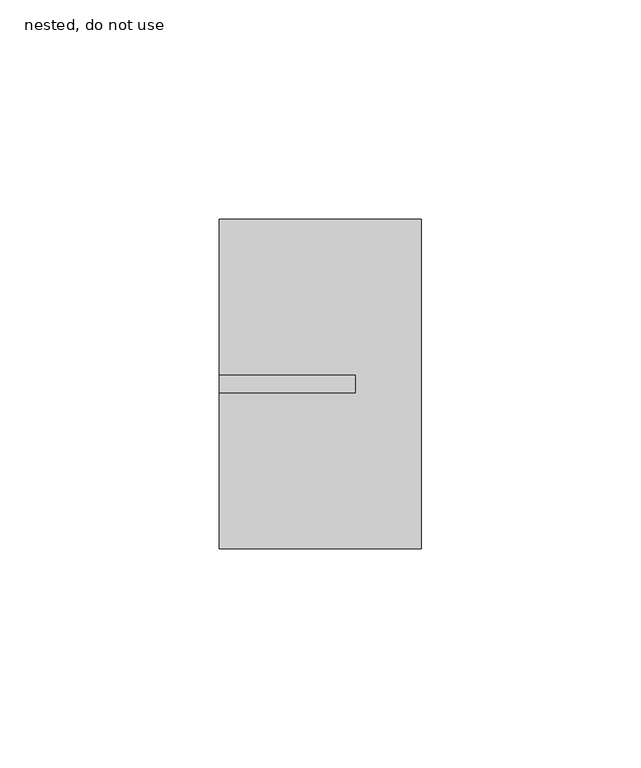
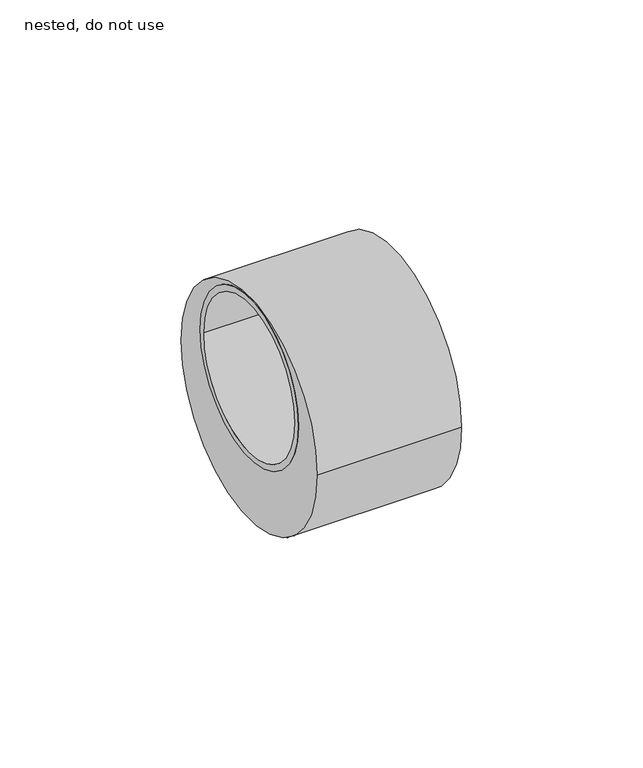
"""IFC4 building model written with IfcOpenShell, lengths in millimetres: pipe fitting geometry, NLRS_52_PIF_UN_Vacurain Flex verloop LV_SH_Dyka : nested, do not use."""

from ifc_helpers import new_model, si_unit, point, frame, frame_2d, origin, place, context, project, spatial, polyline, circle_curve, trimmed, segment, composite_curve, outline, extrude, source, transform, mapped, element, save
from ifc_brep_helpers import plane_surface, cylinder_surface, revolved_surface, advanced_brep


def nested_do_not_use_65d087fa(model_context):
    return source(origin(), model_context, "Body", "SolidModel", [
        extrude(outline(composite_curve([segment(trimmed(circle_curve(frame_2d((0.0, 10.0)), 27.0), [point((-27.0, 10.0))], [point((27.0, 10.0))], False, "CARTESIAN"), True, "CONTINUOUS"), segment(trimmed(circle_curve(frame_2d((0.0, 10.0)), 27.0), [point((27.0, 10.0))], [point((-27.0, 10.0))], False, "CARTESIAN"), True, "CONTINUOUS")], self_intersect=False), holes=[composite_curve([segment(trimmed(circle_curve(frame_2d((0.0, 10.0)), 25.0), [point((-25.0, 10.0))], [point((25.0, 10.0))], True, "CARTESIAN"), True, "CONTINUOUS"), segment(trimmed(circle_curve(frame_2d((0.0, 10.0)), 25.0), [point((25.0, 10.0))], [point((-25.0, 10.0))], True, "CARTESIAN"), True, "CONTINUOUS")], self_intersect=False)]), frame((-31.0, 0.0, 0.0), z_axis=(1.0, 0.0, 0.0), x_axis=(0.0, 1.0, 0.0)), (0.0, 0.0, 1.0), 31.0),
        advanced_brep(
        [(-31.0, -37.5, 0.0), (-31.0, 37.5, 0.0), (-31.0, -25.0, 10.0), (-31.0, 25.0, 10.0), (15.0, -37.5, 0.0), (15.0, 37.5, 0.0), (0.0, -25.0, 10.0), (0.0, 25.0, 10.0)],
        [
            (0, 1, circle_curve(frame((-31.0, 0.0, 0.0), z_axis=(-1.0, 0.0, 0.0), x_axis=(0.0, 1.0, 0.0)), 37.5)),
            (1, 0, circle_curve(frame((-31.0, 0.0, 0.0), z_axis=(-1.0, 0.0, 0.0), x_axis=(0.0, 1.0, 0.0)), 37.5)),
            (2, 3, circle_curve(frame((-31.0, 0.0, 10.0), z_axis=(1.0, 0.0, 0.0), x_axis=(0.0, 1.0, 0.0)), 25.0)),
            (3, 2, circle_curve(frame((-31.0, 0.0, 10.0), z_axis=(1.0, 0.0, 0.0), x_axis=(0.0, 1.0, 0.0)), 25.0)),
            (4, 5, circle_curve(frame((15.0, 0.0, 0.0), z_axis=(1.0, 0.0, 0.0), x_axis=(0.0, 1.0, 0.0)), 37.5)),
            (5, 4, circle_curve(frame((15.0, 0.0, 0.0), z_axis=(1.0, 0.0, 0.0), x_axis=(0.0, 1.0, 0.0)), 37.5)),
            (1, 5),
            (4, 0),
            (6, 7, circle_curve(frame((0.0, 0.0, 10.0), z_axis=(-1.0, 0.0, 0.0), x_axis=(0.0, 1.0, 0.0)), 25.0)),
            (7, 6, circle_curve(frame((0.0, 0.0, 10.0), z_axis=(-1.0, 0.0, 0.0), x_axis=(0.0, 1.0, 0.0)), 25.0)),
            (7, 3),
            (2, 6),
        ],
        [
            plane_surface(frame((-31.0, 37.5, 0.0), z_axis=(-1.0, 0.0, 0.0), x_axis=(0.0, 0.0, -1.0))),
            plane_surface(frame((15.0, 37.5, 0.0), z_axis=(1.0, 0.0, 0.0), x_axis=(0.0, 0.0, 1.0))),
            cylinder_surface(frame((-31.0, 0.0, 0.0), z_axis=(1.0, 0.0, 0.0), x_axis=(0.0, 1.0, 0.0)), 37.5),
            plane_surface(frame((0.0, 25.0, 10.0), z_axis=(-1.0, 0.0, 0.0), x_axis=(0.0, 0.0, 1.0))),
            revolved_surface(polyline([(0.0, 25.0, 10.0), (-31.0, 25.0, 10.0)]), (-31.0, 0.0, 10.0), (1.0, 0.0, 0.0)),
        ],
        [
            (0, [[1, 2], [3, 4]]),
            (1, [[5, 6]]),
            (2, [[-2, 7, -5, 8]]),
            (2, [[-1, -8, -6, -7]]),
            (3, [[9, 10]]),
            (4, [[-10, 11, -3, 12]]),
            (4, [[-9, -12, -4, -11]]),
        ],
    ),
    ])


if __name__ == "__main__":
    model = new_model("IFC4")
    model_context = context("Model", 3, world=origin())
    ifc_project = project(units=[si_unit("LENGTHUNIT", "METRE", prefix="MILLI")], contexts=[model_context])
    site = spatial("IfcSite", under=ifc_project)
    building = spatial("IfcBuilding", under=site)
    placement = place(None, origin())
    nested_do_not_use_shape = nested_do_not_use_65d087fa(model_context)
    element("IfcPipeFitting", 1, ObjectType="NLRS_52_PIF_UN_Vacurain Flex verloop LV_SH_Dyka : nested, do not use", at=placement, inside=building, context=model_context, shape_type="MappedRepresentation", body=[
        mapped(nested_do_not_use_shape, transform((0.0, 0.0, 0.0), x_axis=(1.0, 0.0, 0.0), y_axis=(0.0, 1.0, 0.0), z_axis=(0.0, 0.0, 1.0))),
    ])
    save(model, "model.ifc")
